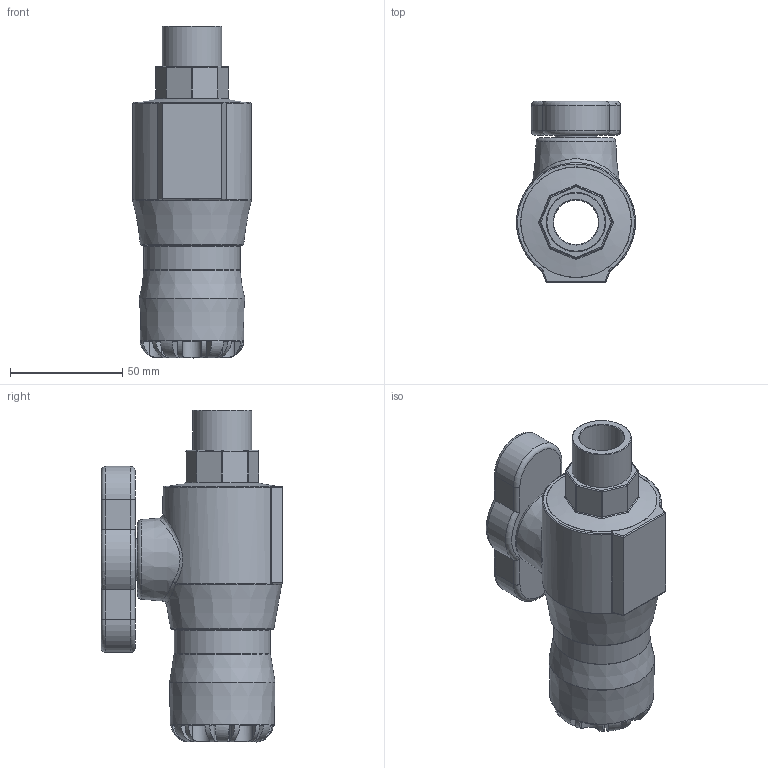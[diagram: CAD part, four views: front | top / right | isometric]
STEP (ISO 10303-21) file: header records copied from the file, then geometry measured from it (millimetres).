
FILE_DESCRIPTION(/* description */ ('PA Ball Valve Series 1 25mm x Male 3/4'''''),/* implementation_level */ '2;1');
FILE_NAME(/* name */ 'C:\Dropbox\99-16-3568-Processing\S1\0371002\03710020S00025007_03710020SF0025007.stp',/* time_stamp */ '2022-04-18T17:32:50+03:00',/* author */ ('Lenora'),/* organization */ (''),/* preprocessor_version */ 'ST-DEVELOPER v17.2',/* originating_system */ 'Autodesk Inventor 2019',/* authorisation */ '');
FILE_SCHEMA (('AUTOMOTIVE_DESIGN { 1 0 10303 214 3 1 1 }'));
Length unit declared in the file: millimetre
Products named in the file (1): 03710020S00025007_03710020SF0025007
Bounding box: 52.94 x 81 x 148 mm (x, y, z)
Volume: 236758.2 mm3; surface area: 43800.3 mm2
Topology: 1 solids, 1 shells, 218 faces, 538 edges, 329 vertices
Faces by surface type: plane 81, cylinder 73, bspline 27, torus 22, sphere 8, cone 7
Full cylindrical faces by diameter (mm): 18.5 x1, 20 x1, 25 x1, 26.441 x1, 27 x1, 42.93 x1
Entity records: 7699 total; most frequent: CARTESIAN_POINT 2604, ORIENTED_EDGE 1076, DIRECTION 1062, EDGE_CURVE 538, AXIS2_PLACEMENT_3D 445, VERTEX_POINT 329, CIRCLE 249, EDGE_LOOP 227
